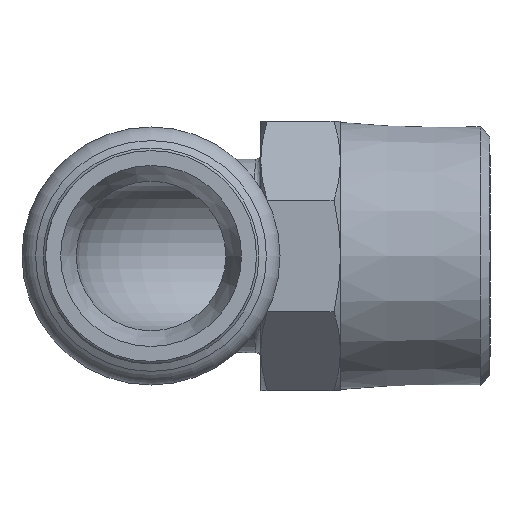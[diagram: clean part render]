
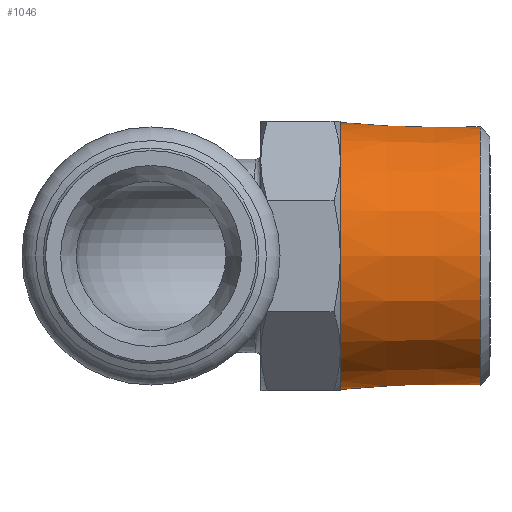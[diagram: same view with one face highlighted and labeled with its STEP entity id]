
A CAD part, left-side view. The second image highlights one B-rep face of the part: STEP entity #1046.
In plain terms, the highlighted conical face has half-angle 1.79 degrees and reference radius 13.038 mm.
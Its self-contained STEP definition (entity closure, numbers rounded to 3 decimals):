
#1004=CARTESIAN_POINT('',(-12.955,-33.,0.0));
#1005=VERTEX_POINT('',#1004);
#1006=CARTESIAN_POINT('',(0.,-33.,0.));
#1007=DIRECTION('',(0.0,-1.0,0.0));
#1008=DIRECTION('',(1.0,0.0,0.0));
#1009=AXIS2_PLACEMENT_3D('',#1006,#1007,#1008);
#1010=CIRCLE('',#1009,12.955);
#1011=EDGE_CURVE('',#1005,#1005,#1010,.T.);
#1027=CARTESIAN_POINT('',(0.,-30.353,0.0));
#1028=DIRECTION('',(0.,1.0,0.0));
#1029=DIRECTION('',(1.0,0.0,0.0));
#1030=AXIS2_PLACEMENT_3D('',#1027,#1028,#1029);
#1031=CONICAL_SURFACE('',#1030,13.038,1.79);
#1032=CARTESIAN_POINT('',(13.392,-19.,0.0));
#1033=VERTEX_POINT('',#1032);
#1034=CARTESIAN_POINT('',(0.,-19.0,0.0));
#1035=DIRECTION('',(0.0,1.0,0.0));
#1036=DIRECTION('',(1.0,0.0,0.0));
#1037=AXIS2_PLACEMENT_3D('',#1034,#1035,#1036);
#1038=CIRCLE('',#1037,13.392);
#1039=EDGE_CURVE('',#1033,#1033,#1038,.T.);
#1040=ORIENTED_EDGE('',*,*,#1039,.F.);
#1041=EDGE_LOOP('',(#1040));
#1042=FACE_OUTER_BOUND('',#1041,.T.);
#1043=ORIENTED_EDGE('',*,*,#1011,.F.);
#1044=EDGE_LOOP('',(#1043));
#1045=FACE_BOUND('',#1044,.T.);
#1046=ADVANCED_FACE('',(#1042,#1045),#1031,.T.);
